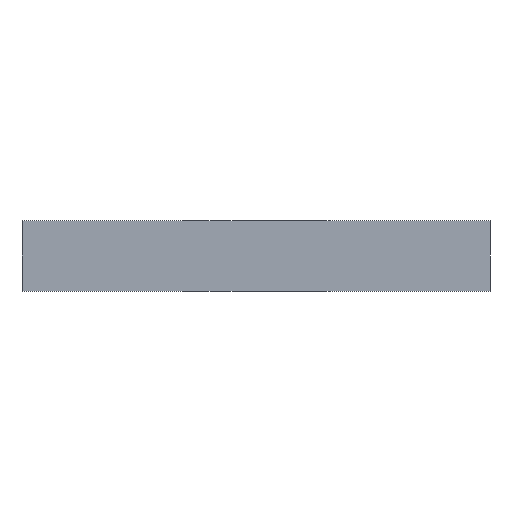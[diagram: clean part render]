
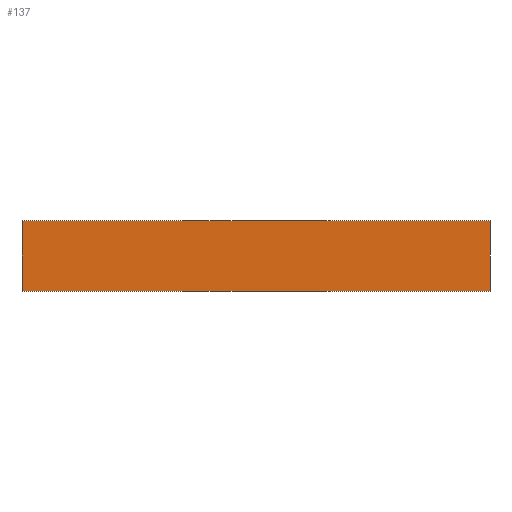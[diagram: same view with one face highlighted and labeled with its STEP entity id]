
A CAD part, front view. The second image highlights one B-rep face of the part: STEP entity #137.
In plain terms, the highlighted planar face has unit normal (0, -1, 0).
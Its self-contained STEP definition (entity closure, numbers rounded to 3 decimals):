
#21 = EDGE_CURVE('',#22,#24,#26,.T.);
#22 = VERTEX_POINT('',#23);
#23 = CARTESIAN_POINT('',(17.65,0.,0.));
#24 = VERTEX_POINT('',#25);
#25 = CARTESIAN_POINT('',(17.65,0.,1.2));
#26 = SURFACE_CURVE('',#27,(#31,#43),.PCURVE_S1.);
#27 = LINE('',#28,#29);
#28 = CARTESIAN_POINT('',(17.65,0.,0.));
#29 = VECTOR('',#30,1.);
#30 = DIRECTION('',(0.,0.,1.));
#31 = PCURVE('',#32,#37);
#32 = PLANE('',#33);
#33 = AXIS2_PLACEMENT_3D('',#34,#35,#36);
#34 = CARTESIAN_POINT('',(17.65,0.,0.));
#35 = DIRECTION('',(1.,0.,-0.));
#36 = DIRECTION('',(0.,0.,1.));
#37 = DEFINITIONAL_REPRESENTATION('',(#38),#42);
#38 = LINE('',#39,#40);
#39 = CARTESIAN_POINT('',(0.,0.));
#40 = VECTOR('',#41,1.);
#41 = DIRECTION('',(1.,0.));
#42 = ( GEOMETRIC_REPRESENTATION_CONTEXT(2) 
PARAMETRIC_REPRESENTATION_CONTEXT() REPRESENTATION_CONTEXT('2D SPACE',''
  ) );
#43 = PCURVE('',#44,#49);
#44 = PLANE('',#45);
#45 = AXIS2_PLACEMENT_3D('',#46,#47,#48);
#46 = CARTESIAN_POINT('',(17.65,0.,0.));
#47 = DIRECTION('',(-0.,1.,0.));
#48 = DIRECTION('',(0.,0.,1.));
#49 = DEFINITIONAL_REPRESENTATION('',(#50),#54);
#50 = LINE('',#51,#52);
#51 = CARTESIAN_POINT('',(0.,0.));
#52 = VECTOR('',#53,1.);
#53 = DIRECTION('',(1.,0.));
#54 = ( GEOMETRIC_REPRESENTATION_CONTEXT(2) 
PARAMETRIC_REPRESENTATION_CONTEXT() REPRESENTATION_CONTEXT('2D SPACE',''
  ) );
#72 = PLANE('',#73);
#73 = AXIS2_PLACEMENT_3D('',#74,#75,#76);
#74 = CARTESIAN_POINT('',(17.65,0.,0.));
#75 = DIRECTION('',(0.,0.,1.));
#76 = DIRECTION('',(1.,0.,-0.));
#126 = PLANE('',#127);
#127 = AXIS2_PLACEMENT_3D('',#128,#129,#130);
#128 = CARTESIAN_POINT('',(17.65,0.,1.2));
#129 = DIRECTION('',(0.,0.,1.));
#130 = DIRECTION('',(1.,0.,-0.));
#137 = ADVANCED_FACE('',(#138),#44,.F.);
#138 = FACE_BOUND('',#139,.F.);
#139 = EDGE_LOOP('',(#140,#163,#164,#187));
#140 = ORIENTED_EDGE('',*,*,#141,.F.);
#141 = EDGE_CURVE('',#22,#142,#144,.T.);
#142 = VERTEX_POINT('',#143);
#143 = CARTESIAN_POINT('',(25.65,0.,0.));
#144 = SURFACE_CURVE('',#145,(#149,#156),.PCURVE_S1.);
#145 = LINE('',#146,#147);
#146 = CARTESIAN_POINT('',(17.65,0.,0.));
#147 = VECTOR('',#148,1.);
#148 = DIRECTION('',(1.,0.,-0.));
#149 = PCURVE('',#44,#150);
#150 = DEFINITIONAL_REPRESENTATION('',(#151),#155);
#151 = LINE('',#152,#153);
#152 = CARTESIAN_POINT('',(0.,0.));
#153 = VECTOR('',#154,1.);
#154 = DIRECTION('',(0.,1.));
#155 = ( GEOMETRIC_REPRESENTATION_CONTEXT(2) 
PARAMETRIC_REPRESENTATION_CONTEXT() REPRESENTATION_CONTEXT('2D SPACE',''
  ) );
#156 = PCURVE('',#72,#157);
#157 = DEFINITIONAL_REPRESENTATION('',(#158),#162);
#158 = LINE('',#159,#160);
#159 = CARTESIAN_POINT('',(0.,0.));
#160 = VECTOR('',#161,1.);
#161 = DIRECTION('',(1.,0.));
#162 = ( GEOMETRIC_REPRESENTATION_CONTEXT(2) 
PARAMETRIC_REPRESENTATION_CONTEXT() REPRESENTATION_CONTEXT('2D SPACE',''
  ) );
#163 = ORIENTED_EDGE('',*,*,#21,.T.);
#164 = ORIENTED_EDGE('',*,*,#165,.T.);
#165 = EDGE_CURVE('',#24,#166,#168,.T.);
#166 = VERTEX_POINT('',#167);
#167 = CARTESIAN_POINT('',(25.65,0.,1.2));
#168 = SURFACE_CURVE('',#169,(#173,#180),.PCURVE_S1.);
#169 = LINE('',#170,#171);
#170 = CARTESIAN_POINT('',(17.65,0.,1.2));
#171 = VECTOR('',#172,1.);
#172 = DIRECTION('',(1.,0.,-0.));
#173 = PCURVE('',#44,#174);
#174 = DEFINITIONAL_REPRESENTATION('',(#175),#179);
#175 = LINE('',#176,#177);
#176 = CARTESIAN_POINT('',(1.2,0.));
#177 = VECTOR('',#178,1.);
#178 = DIRECTION('',(0.,1.));
#179 = ( GEOMETRIC_REPRESENTATION_CONTEXT(2) 
PARAMETRIC_REPRESENTATION_CONTEXT() REPRESENTATION_CONTEXT('2D SPACE',''
  ) );
#180 = PCURVE('',#126,#181);
#181 = DEFINITIONAL_REPRESENTATION('',(#182),#186);
#182 = LINE('',#183,#184);
#183 = CARTESIAN_POINT('',(0.,0.));
#184 = VECTOR('',#185,1.);
#185 = DIRECTION('',(1.,0.));
#186 = ( GEOMETRIC_REPRESENTATION_CONTEXT(2) 
PARAMETRIC_REPRESENTATION_CONTEXT() REPRESENTATION_CONTEXT('2D SPACE',''
  ) );
#187 = ORIENTED_EDGE('',*,*,#188,.F.);
#188 = EDGE_CURVE('',#142,#166,#189,.T.);
#189 = SURFACE_CURVE('',#190,(#194,#201),.PCURVE_S1.);
#190 = LINE('',#191,#192);
#191 = CARTESIAN_POINT('',(25.65,0.,0.));
#192 = VECTOR('',#193,1.);
#193 = DIRECTION('',(0.,0.,1.));
#194 = PCURVE('',#44,#195);
#195 = DEFINITIONAL_REPRESENTATION('',(#196),#200);
#196 = LINE('',#197,#198);
#197 = CARTESIAN_POINT('',(0.,8.));
#198 = VECTOR('',#199,1.);
#199 = DIRECTION('',(1.,0.));
#200 = ( GEOMETRIC_REPRESENTATION_CONTEXT(2) 
PARAMETRIC_REPRESENTATION_CONTEXT() REPRESENTATION_CONTEXT('2D SPACE',''
  ) );
#201 = PCURVE('',#202,#207);
#202 = PLANE('',#203);
#203 = AXIS2_PLACEMENT_3D('',#204,#205,#206);
#204 = CARTESIAN_POINT('',(25.65,0.,0.));
#205 = DIRECTION('',(1.,0.,-0.));
#206 = DIRECTION('',(0.,0.,1.));
#207 = DEFINITIONAL_REPRESENTATION('',(#208),#212);
#208 = LINE('',#209,#210);
#209 = CARTESIAN_POINT('',(0.,0.));
#210 = VECTOR('',#211,1.);
#211 = DIRECTION('',(1.,0.));
#212 = ( GEOMETRIC_REPRESENTATION_CONTEXT(2) 
PARAMETRIC_REPRESENTATION_CONTEXT() REPRESENTATION_CONTEXT('2D SPACE',''
  ) );
